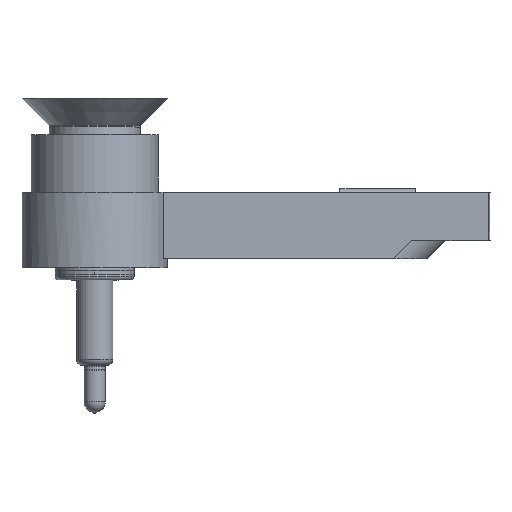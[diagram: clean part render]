
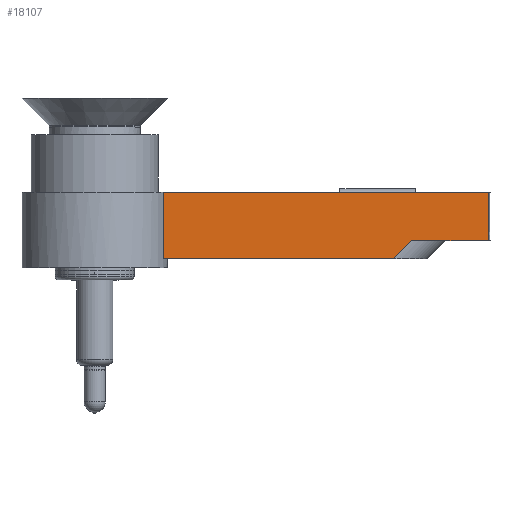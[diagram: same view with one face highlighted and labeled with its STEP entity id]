
A CAD part, top view. The second image highlights one B-rep face of the part: STEP entity #18107.
In plain terms, the highlighted planar face has unit normal (0, 0, 1).
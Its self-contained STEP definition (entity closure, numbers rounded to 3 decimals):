
#17458=CARTESIAN_POINT('',(98.686,-14.,8.));
#17464=DIRECTION('',(-1.,0.,0.));
#17465=VECTOR('',#17464,76.059);
#17466=CARTESIAN_POINT('',(98.686,-14.,8.));
#17467=LINE('',#17466,#17465);
#17468=DIRECTION('',(-0.707,-0.707,0.));
#17469=VECTOR('',#17468,8.485);
#17470=CARTESIAN_POINT('',(104.686,-8.,8.));
#17471=LINE('',#17470,#17469);
#17472=DIRECTION('',(0.,1.,0.));
#17473=VECTOR('',#17472,22.);
#17474=CARTESIAN_POINT('',(22.627,-14.,8.));
#17475=LINE('',#17474,#17473);
#17492=DIRECTION('',(1.,0.,0.));
#17493=VECTOR('',#17492,107.373);
#17494=CARTESIAN_POINT('',(22.627,8.,8.));
#17495=LINE('',#17494,#17493);
#17615=DIRECTION('',(1.,0.,0.));
#17616=VECTOR('',#17615,25.314);
#17617=CARTESIAN_POINT('',(104.686,-8.,8.));
#17618=LINE('',#17617,#17616);
#17626=DIRECTION('',(0.,-1.,0.));
#17627=VECTOR('',#17626,16.);
#17628=CARTESIAN_POINT('',(130.,8.,8.));
#17629=LINE('',#17628,#17627);
#17696=CARTESIAN_POINT('',(22.627,8.,8.));
#17697=CARTESIAN_POINT('',(130.,8.,8.));
#17698=VERTEX_POINT('',#17696);
#17699=VERTEX_POINT('',#17697);
#17708=CARTESIAN_POINT('',(22.627,-14.,8.));
#17709=VERTEX_POINT('',#17708);
#17711=VERTEX_POINT('',#17458);
#17712=CARTESIAN_POINT('',(104.686,-8.,8.));
#17713=VERTEX_POINT('',#17712);
#17714=CARTESIAN_POINT('',(130.,-8.,8.));
#17715=VERTEX_POINT('',#17714);
#18091=CARTESIAN_POINT('',(0.,8.,8.));
#18092=DIRECTION('',(0.,0.,1.));
#18093=DIRECTION('',(1.,0.,0.));
#18094=AXIS2_PLACEMENT_3D('',#18091,#18092,#18093);
#18095=PLANE('',#18094);
#18096=ORIENTED_EDGE('',*,*,#18082,.T.);
#18097=ORIENTED_EDGE('',*,*,#18071,.T.);
#18098=ORIENTED_EDGE('',*,*,#18054,.T.);
#18100=ORIENTED_EDGE('',*,*,#18099,.T.);
#18102=ORIENTED_EDGE('',*,*,#18101,.T.);
#18104=ORIENTED_EDGE('',*,*,#18103,.F.);
#18105=EDGE_LOOP('',(#18096,#18097,#18098,#18100,#18102,#18104));
#18106=FACE_OUTER_BOUND('',#18105,.F.);
#18107=ADVANCED_FACE('',(#18106),#18095,.T.);
#18054=EDGE_CURVE('',#17709,#17698,#17475,.T.);
#18071=EDGE_CURVE('',#17711,#17709,#17467,.T.);
#18082=EDGE_CURVE('',#17713,#17711,#17471,.T.);
#18099=EDGE_CURVE('',#17698,#17699,#17495,.T.);
#18101=EDGE_CURVE('',#17699,#17715,#17629,.T.);
#18103=EDGE_CURVE('',#17713,#17715,#17618,.T.);
